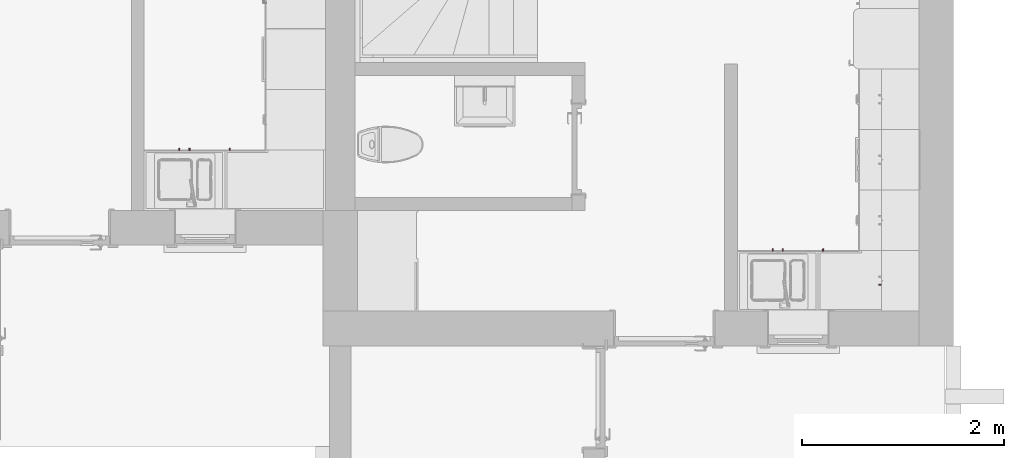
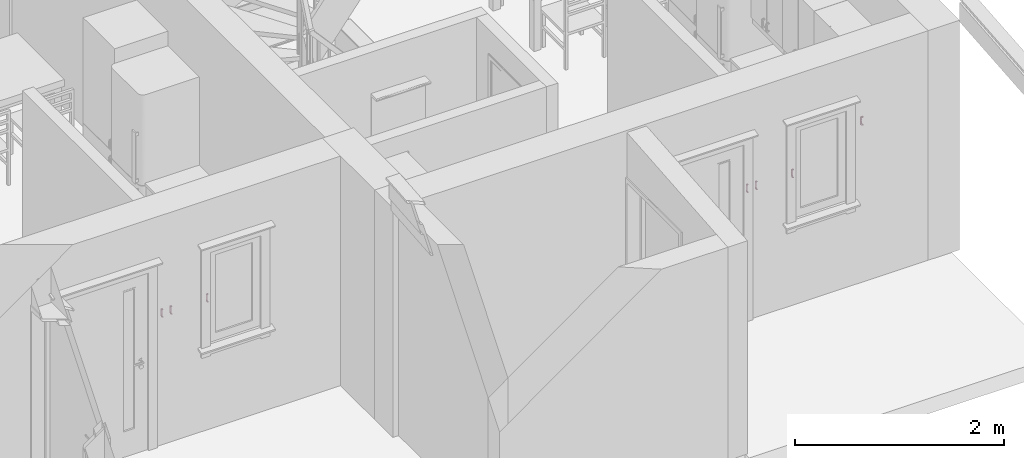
# One storey, part 50 of 65: 7 furnishings.
"""IFC2X3 building model written with IfcOpenShell, lengths in millimetres."""

from ifc_helpers import new_model, entity, si_unit, converted_unit, direction, frame, origin, place, context, subcontext, project, spatial, faceted_brep, source, transform, mapped, material, type_object, type_shapes, element, save


model = new_model("IFC2X3")

# Units and contexts
model_context = context("Model", 3, precision=0.01, world=origin(), true_north=direction((0.0, 1.0)))
body_context = subcontext(model_context, "Body", "Model", "MODEL_VIEW")
ifc_project = project(units=[si_unit("LENGTHUNIT", "METRE", prefix="MILLI"), si_unit("AREAUNIT", "SQUARE_METRE"), si_unit("VOLUMEUNIT", "CUBIC_METRE"), converted_unit("PLANEANGLEUNIT", "DEGREE", entity("IfcPlaneAngleMeasure", 0.017453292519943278), si_unit("PLANEANGLEUNIT", "RADIAN"), dimensions=[0, 0, 0, 0, 0, 0, 0])], contexts=[model_context])

# Site, building, storey, space
site_placement = place(None, origin())
site = spatial("IfcSite", under=ifc_project, at=site_placement, Name="Default", CompositionType="ELEMENT")
building_placement = place(site_placement, origin())
building = spatial("IfcBuilding", under=site, at=building_placement, CompositionType="ELEMENT")
storey_placement = place(building_placement, origin())
storey = spatial("IfcBuildingStorey", under=building, at=storey_placement, Name="Et. 1", CompositionType="ELEMENT", Elevation=0.0)
space_1_placement = place(storey_placement, origin())
space_1 = spatial("IfcSpace", under=storey, at=space_1_placement, Name="113", CompositionType="ELEMENT", InteriorOrExteriorSpace="INTERNAL")

# Furnishings
ifc_material = material(Name="Focus - Kjøkken - Håndtak")
furniture_type = type_object("IfcFurnitureType", Name="Focus - Håndtak Skap:Håndtak skap", AssemblyPlace="NOTDEFINED", material=ifc_material)
shared_shape = source(origin(), body_context, "Body", "Brep", [
    faceted_brep([(-6.0, 0.0, 4.021099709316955), (6.0, 0.0, 4.021099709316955), (7.414213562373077, 0.0, 3.435313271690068), (8.0, 0.0, 2.021099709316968), (8.0, 0.0, -4.0210997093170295), (-8.0, 0.0, -4.0210997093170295), (-8.0, 0.0, 2.021099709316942), (-7.414213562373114, 0.0, 3.435313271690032), (-8.0, 0.0, -92.021099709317), (-8.0, 0.0, -85.97890029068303), (8.0, 0.0, -85.97890029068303), (8.0, 0.0, -92.02109970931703), (7.414213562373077, 0.0, -93.43531327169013), (6.0, 0.0, -94.02109970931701), (-6.0, 0.0, -94.02109970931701), (-7.414213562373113, 0.0, -93.43531327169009), (6.0, -13.0, 4.021099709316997), (7.414213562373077, -13.0, 3.4353132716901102), (7.707106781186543, -13.0, 2.728206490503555), (8.0, -13.0, 2.0210997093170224), (8.0, -16.60126528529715, 0.5294067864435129), (8.0, -19.75783998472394, -0.7780892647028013), (8.0, -22.914414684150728, -2.0855853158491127), (8.0, -23.941085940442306, -4.564188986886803), (8.0, -24.967757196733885, -7.042792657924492), (8.0, -25.994428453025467, -9.52139632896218), (8.0, -27.021099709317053, -12.0), (8.0, -27.021099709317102, -24.345039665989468), (8.0, -27.02109970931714, -36.69008005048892), (8.0, -27.021099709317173, -47.017560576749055), (8.0, -27.02109970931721, -57.34504038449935), (8.0, -27.021099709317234, -65.65496033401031), (8.0, -27.021099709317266, -78.0), (8.0, -25.52940678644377, -81.60126528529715), (8.0, -24.221910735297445, -84.75783998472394), (8.0, -22.914414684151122, -87.91441468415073), (8.0, -20.435811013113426, -88.9410859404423), (8.0, -17.95720734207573, -89.96775719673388), (8.0, -15.478603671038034, -90.99442845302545), (8.0, -13.0, -92.02109970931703), (8.0, -13.0, -85.97890029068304), (8.0, -18.64193450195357, -83.64193450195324), (8.0, -20.978900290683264, -78.0), (8.0, -20.978900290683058, -12.0), (8.0, -18.641934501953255, -6.358065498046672), (8.0, -13.0, -4.021099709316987), (-8.0, -13.0, -4.021099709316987), (-8.0, -13.0, -92.02109970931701), (-8.0, -16.6012653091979, -90.52940677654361), (-8.0, -19.7578399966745, -89.22191073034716), (-8.0, -22.914414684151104, -87.91441468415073), (-8.0, -23.941085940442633, -85.435811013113), (-8.0, -24.967757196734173, -82.9572073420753), (-8.0, -25.99442845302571, -80.47860367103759), (-8.0, -27.021099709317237, -78.0), (-8.0, -27.0210997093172, -65.65496055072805), (-8.0, -27.021099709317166, -55.327480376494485), (-8.0, -27.02109970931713, -45.00000020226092), (-8.0, -27.021099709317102, -34.67252002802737), (-8.0, -27.021099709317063, -24.34503985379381), (-8.0, -27.02109970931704, -12.0), (-8.0, -25.52940677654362, -8.398734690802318), (-8.0, -24.221910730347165, -5.242160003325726), (-8.0, -22.914414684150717, -2.0855853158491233), (-8.0, -20.435811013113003, -1.0589140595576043), (-8.0, -17.9572073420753, -0.032242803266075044), (-8.0, -15.478603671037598, 0.9944284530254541), (-8.0, -13.0, 2.0210997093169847), (-8.0, -18.641934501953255, -6.358065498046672), (-8.0, -20.97890029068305, -12.0), (-8.0, -20.978900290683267, -78.0), (-8.0, -18.64193450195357, -83.64193450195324), (-8.0, -13.0, -85.97890029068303), (-7.414213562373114, -13.0, 3.4353132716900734), (-6.523051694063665, -13.0, 3.8044446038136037), (-6.0, -13.0, 4.021099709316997), (7.77682804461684, -22.641402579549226, -0.588486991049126), (7.761199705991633, -19.755916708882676, 1.3575143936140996), (7.832026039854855, -25.954055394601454, -4.794062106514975), (6.0, -24.3286282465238, -0.6713717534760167), (6.7653668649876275, -25.002953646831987, -1.6197407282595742), (7.138822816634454, -22.341444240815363, 0.5752165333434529), (6.0, -20.2025305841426, 1.0377138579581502), (7.148530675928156, -17.923500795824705, 2.864246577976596), (7.108929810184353, -27.65191997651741, -6.400304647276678), (6.0, -26.037713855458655, -4.797469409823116), (6.0, -26.674863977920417, -6.335685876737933), (6.0, -27.52940678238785, -8.398734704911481), (6.0, -25.18317105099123, -2.734420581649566), (7.807346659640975, -27.454202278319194, -8.476170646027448), (7.7836039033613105, -16.529274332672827, 2.502698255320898), (6.0, -16.60126529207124, 2.529406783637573), (7.414213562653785, -25.40873190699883, -2.82000717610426), (6.873580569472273, -26.597477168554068, -3.91370423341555), (6.0, -21.496471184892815, 0.5017461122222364), (6.523051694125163, -28.804444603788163, -12.0), (6.968390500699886, -28.53877057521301, -9.3033965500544), (6.0, -27.847981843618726, -9.167842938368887), (6.0, -29.021099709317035, -12.0), (7.414213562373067, -28.43531327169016, -12.0), (6.0, -18.664314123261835, 1.67486397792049), (6.0, -25.501746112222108, -3.5035288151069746), (-6.0, -16.601265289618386, 2.529406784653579), (-6.0, -15.832157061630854, 2.847981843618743), (-7.78360391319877, -27.50269824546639, -8.470725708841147), (-7.761199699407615, -26.357514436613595, -5.244083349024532), (-7.10892981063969, -18.599695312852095, 2.651919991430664), (-6.0, -20.2025305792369, 1.0377138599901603), (-6.0, -18.664314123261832, 1.67486397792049), (-7.730939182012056, -16.04875454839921, 2.7104148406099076), (-7.744591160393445, -19.340507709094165, 1.5930015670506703), (-6.76536686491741, -21.540484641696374, 1.3746327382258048), (-6.0, -22.265579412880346, 0.183171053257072), (-6.0, -21.496471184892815, 0.5017461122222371), (-7.148530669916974, -27.864246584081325, -7.076499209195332), (-7.138822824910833, -25.57521654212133, -2.6585557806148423), (-6.0, -26.037713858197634, -4.7974694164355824), (-7.414213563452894, -22.17999279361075, 0.4087319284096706), (-7.776828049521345, -24.411513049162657, -2.3585974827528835), (-6.853012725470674, -23.855367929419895, -0.47819170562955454), (-7.414213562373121, -28.43531327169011, -12.0), (-6.0, -27.529406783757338, -8.398734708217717), (-6.0, -25.501746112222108, -3.5035288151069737), (-6.0, -24.3286282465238, -0.6713717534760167), (-7.7071067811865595, -27.728206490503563, -12.0), (-6.96839049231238, -15.696603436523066, 3.5387705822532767), (-6.0, -29.021099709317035, -12.0), (-6.0, -26.67486397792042, -6.33568587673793), (7.414213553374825, -28.435313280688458, -29.508780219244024), (6.0, -29.021099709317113, -34.67252039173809), (7.450985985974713, -28.39755881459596, -41.853819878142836), (7.41421354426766, -28.435313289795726, -61.49999992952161), (6.0, -29.02109970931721, -65.65496032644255), (7.4142135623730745, -28.435313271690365, -78.0), (6.0, -29.02109970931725, -78.0), (6.0, -29.02109970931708, -24.345039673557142), (7.707106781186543, -27.728206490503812, -78.0), (6.0, -29.02109970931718, -55.3274796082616), (6.0, -29.021099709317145, -45.0), (-7.414213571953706, -28.435313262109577, -29.50878047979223), (-6.0, -29.02109970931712, -36.69007988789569), (-6.0, -29.021099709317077, -24.345040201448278), (-7.414213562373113, -28.43531327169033, -78.0), (-7.414213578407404, -28.435313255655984, -61.499999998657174), (-6.0, -29.021099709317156, -47.017559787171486), (-7.376459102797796, -28.472085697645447, -41.85382016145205), (-6.0, -29.021099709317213, -65.6549603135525), (-6.523051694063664, -28.80444460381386, -78.0), (-6.0, -29.02109970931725, -78.0), (-6.0, -29.021099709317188, -57.34504020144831), (7.776828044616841, -24.411513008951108, -87.64140257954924), (7.7611997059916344, -26.357514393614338, -84.7559167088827), (7.8320260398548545, -20.20593789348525, -90.95405539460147), (6.0, -24.328628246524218, -89.32862824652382), (6.0, -22.265579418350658, -90.18317105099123), (6.7653668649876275, -23.38025927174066, -90.002953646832), (6.0, -26.037713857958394, -85.2025305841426), (7.138822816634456, -25.575216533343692, -87.34144424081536), (7.148530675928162, -27.864246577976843, -82.92350079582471), (7.108929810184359, -18.599695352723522, -92.65191997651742), (6.0, -20.202530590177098, -91.03771385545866), (6.0, -18.66431412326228, -91.67486397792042), (6.0, -16.601265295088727, -92.52940678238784), (6.873580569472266, -21.086295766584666, -91.5974771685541), (6.0, -21.49647118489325, -90.50174611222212), (7.8073466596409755, -16.5238293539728, -92.45420227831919), (7.78360390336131, -27.50269825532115, -81.52927433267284), (6.0, -27.529406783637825, -81.60126529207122), (7.414213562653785, -22.179992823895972, -90.40873190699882), (6.0, -25.50174611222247, -86.49647118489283), (6.523051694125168, -13.0, -93.80444460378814), (6.968390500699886, -15.696603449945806, -93.53877057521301), (6.0, -15.832157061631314, -92.84798184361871), (6.0, -13.0, -94.02109970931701), (7.414213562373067, -13.0, -93.43531327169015), (6.0, -26.674863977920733, -83.66431412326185), (-6.0, -27.529406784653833, -81.60126528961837), (-6.0, -27.84798184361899, -80.83215706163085), (-7.7836039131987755, -16.529274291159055, -92.50269824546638), (-7.7611996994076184, -19.755916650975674, -91.3575144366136), (-7.108929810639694, -27.651919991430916, -83.59969531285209), (-6.0, -26.03771385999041, -85.20253057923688), (-6.0, -26.67486397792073, -83.66431412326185), (-7.730939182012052, -27.71041484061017, -81.04875454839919), (-7.74459116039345, -26.593001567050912, -84.34050770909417), (-6.76536686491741, -26.374632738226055, -86.54048464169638), (-6.0, -25.18317105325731, -87.26557941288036), (-6.0, -25.50174611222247, -86.49647118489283), (-7.148530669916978, -17.923500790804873, -92.86424658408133), (-7.138822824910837, -22.341444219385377, -90.57521654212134), (-6.0, -20.20253058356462, -91.03771385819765), (-7.414213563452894, -25.40873192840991, -87.17999279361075), (-7.776828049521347, -22.64140251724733, -89.41151304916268), (-6.853012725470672, -24.52180829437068, -88.85536792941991), (-7.41421356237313, -13.0, -93.43531327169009), (-6.0, -16.601265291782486, -92.52940678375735), (-6.0, -21.49647118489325, -90.50174611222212), (-6.0, -24.328628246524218, -89.32862824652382), (-7.707106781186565, -13.0, -92.72820649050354), (-6.96839049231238, -28.538770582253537, -80.69660343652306), (-6.0, -13.0, -94.02109970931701), (-6.0, -18.66431412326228, -91.67486397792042)], [[[0, 1, 2, 3, 4, 5, 6, 7]], [[8, 9, 10, 11, 12, 13, 14, 15]], [[16, 17, 2, 1]], [[2, 17, 18, 19, 3]], [[4, 3, 19, 20, 21, 22, 23, 24, 25, 26, 27, 28, 29, 30, 31, 32, 33, 34, 35, 36, 37, 38, 39, 11, 10, 40, 41, 42, 43, 44, 45]], [[5, 4, 45, 46]], [[9, 8, 47, 48, 49, 50, 51, 52, 53, 54, 55, 56, 57, 58, 59, 60, 61, 62, 63, 64, 65, 66, 67, 6, 5, 46, 68, 69, 70, 71, 72]], [[67, 73, 7, 6]], [[7, 73, 74, 75, 0]], [[1, 0, 75, 16]], [[76, 21, 77]], [[78, 24, 23]], [[79, 80, 81]], [[82, 81, 83]], [[84, 85, 86, 87]], [[80, 79, 88]], [[89, 24, 78]], [[90, 77, 20]], [[17, 91, 83]], [[92, 93, 84]], [[81, 82, 94, 79]], [[87, 95, 96]], [[77, 83, 81]], [[23, 76, 78]], [[93, 92, 80]], [[22, 76, 23]], [[90, 17, 83]], [[19, 18, 17, 90]], [[95, 87, 97, 98]], [[99, 26, 89]], [[76, 77, 81]], [[20, 19, 90]], [[92, 76, 81]], [[21, 76, 22]], [[21, 20, 77]], [[83, 77, 90]], [[91, 17, 16]], [[83, 91, 100, 82]], [[93, 88, 101, 85]], [[81, 80, 92]], [[88, 93, 80]], [[85, 84, 93]], [[76, 92, 78]], [[92, 84, 78]], [[89, 78, 84]], [[84, 96, 89]], [[89, 26, 25, 24]], [[96, 95, 99]], [[89, 96, 99]], [[87, 96, 84]], [[44, 68, 46, 45]], [[43, 69, 68, 44]], [[74, 102, 103, 75]], [[104, 105, 61]], [[106, 107, 108, 102]], [[109, 110, 106]], [[111, 112, 113, 107]], [[105, 114, 115]], [[115, 114, 116]], [[110, 64, 117]], [[118, 62, 105]], [[106, 110, 117]], [[117, 119, 111]], [[120, 121, 114]], [[115, 116, 122, 123]], [[112, 111, 119]], [[119, 117, 118]], [[63, 118, 64]], [[104, 120, 114]], [[60, 124, 120, 104]], [[109, 125, 73]], [[125, 109, 106]], [[118, 105, 115]], [[61, 60, 104]], [[118, 115, 119]], [[62, 118, 63]], [[62, 61, 105]], [[114, 105, 104]], [[121, 120, 126]], [[114, 121, 127, 116]], [[107, 106, 111]], [[106, 117, 111]], [[115, 123, 119]], [[112, 119, 123]], [[64, 118, 117]], [[125, 74, 73]], [[102, 74, 125]], [[102, 125, 106]], [[73, 67, 109]], [[66, 65, 64, 110]], [[110, 109, 66]], [[109, 67, 66]], [[122, 116, 127, 121, 126, 98, 97, 87, 86, 85, 101, 88, 79, 123]], [[79, 94, 82, 100, 91, 16, 75, 103, 102, 108, 107, 113, 112, 123]], [[128, 28, 27, 99]], [[129, 130, 128]], [[29, 130, 131]], [[132, 133, 131]], [[132, 134, 133]], [[135, 99, 95, 98]], [[128, 99, 135, 129]], [[30, 29, 131, 31]], [[31, 133, 136, 32]], [[27, 26, 99]], [[31, 131, 133]], [[130, 137, 131]], [[28, 130, 29]], [[129, 138, 137, 130]], [[28, 128, 130]], [[137, 132, 131]], [[69, 43, 42, 70]], [[139, 140, 141, 120]], [[55, 142, 143]], [[144, 145, 143]], [[146, 142, 147, 148]], [[141, 126, 120]], [[55, 54, 142]], [[59, 120, 124, 60]], [[139, 120, 59, 58]], [[146, 149, 144, 143]], [[58, 145, 139]], [[146, 143, 142]], [[145, 56, 143]], [[140, 145, 144]], [[58, 57, 56, 145]], [[140, 139, 145]], [[56, 55, 143]], [[98, 126, 141, 140, 144, 149, 146, 148, 134, 132, 137, 138, 129, 135]], [[150, 34, 151]], [[152, 37, 36]], [[153, 154, 155]], [[156, 157, 158]], [[159, 160, 161, 162]], [[163, 154, 164, 160]], [[165, 37, 152]], [[166, 151, 33]], [[133, 167, 158]], [[168, 163, 159]], [[157, 156, 169, 153]], [[162, 170, 171]], [[151, 158, 157]], [[36, 150, 152]], [[163, 168, 155]], [[35, 150, 36]], [[166, 133, 158]], [[32, 136, 133, 166]], [[170, 162, 172, 173]], [[174, 39, 165]], [[150, 151, 157]], [[33, 32, 166]], [[168, 150, 157]], [[34, 150, 35]], [[34, 33, 151]], [[158, 151, 166]], [[167, 133, 134]], [[158, 167, 175, 156]], [[168, 157, 155]], [[157, 153, 155]], [[154, 163, 155]], [[160, 159, 163]], [[150, 168, 152]], [[168, 159, 152]], [[165, 152, 159]], [[159, 171, 165]], [[165, 39, 38, 37]], [[171, 170, 174]], [[165, 171, 174]], [[162, 171, 159]], [[41, 71, 70, 42]], [[40, 72, 71, 41]], [[147, 176, 177, 148]], [[178, 179, 48]], [[180, 181, 182, 176]], [[183, 184, 180]], [[185, 186, 187, 181]], [[179, 188, 189]], [[189, 188, 190]], [[184, 51, 191]], [[192, 49, 179]], [[180, 184, 191]], [[191, 193, 185]], [[194, 195, 188]], [[189, 190, 196, 197]], [[186, 185, 193]], [[193, 191, 192]], [[50, 192, 51]], [[178, 194, 188]], [[47, 198, 194, 178]], [[183, 199, 142]], [[199, 183, 180]], [[192, 179, 189]], [[48, 47, 178]], [[192, 189, 193]], [[49, 192, 50]], [[49, 48, 179]], [[188, 179, 178]], [[195, 194, 200]], [[188, 195, 201, 190]], [[181, 180, 185]], [[180, 191, 185]], [[189, 197, 193]], [[186, 193, 197]], [[51, 192, 191]], [[199, 147, 142]], [[176, 147, 199]], [[176, 199, 180]], [[142, 54, 183]], [[53, 52, 51, 184]], [[184, 183, 53]], [[183, 54, 53]], [[196, 190, 201, 195, 200, 173, 172, 162, 161, 160, 164, 154, 153, 197]], [[153, 169, 156, 175, 167, 134, 148, 177, 176, 182, 181, 187, 186, 197]], [[13, 12, 174, 170, 173]], [[174, 12, 11, 39]], [[72, 40, 10, 9]], [[8, 15, 194, 198, 47]], [[194, 15, 14, 200]], [[173, 200, 14, 13]]]),
])
type_shapes(furniture_type, [shared_shape])
for number, where, z_axis, x_axis, name in (
    (1, (32469.00958675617, 9344.180957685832, 820.0), (0.0, 0.0, 1.0), (-1.0, 0.0, 0.0), "Focus - Håndtak Skap:Håndtak skap"),
    (2, (32569.00958675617, 9344.180957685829, 820.0), (0.0, 0.0, 1.0), (-1.0, 0.0, 0.0), "Focus - Håndtak Skap:Håndtak skap"),
    (3, (32969.00958675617, 9344.180957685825, 820.0), (0.0, 0.0, 1.0), (-1.0, 0.0, 0.0), "Focus - Håndtak Skap:Håndtak skap"),
):
    element("IfcFurnishingElement", number, at=place(space_1_placement, frame(where, z_axis=z_axis, x_axis=x_axis)), inside=space_1, type_object=furniture_type, material=ifc_material, Name=name, context=body_context, shape_type="MappedRepresentation", body=[
        mapped(shared_shape, transform((0.0, 0.0, 0.0), scale=1.0)),
    ])

# Space
space_2_placement = place(storey_placement, origin())
space_2 = spatial("IfcSpace", under=storey, at=space_2_placement, Name="109", CompositionType="ELEMENT", InteriorOrExteriorSpace="INTERNAL")

# Furnishings
for number, where, z_axis, x_axis, name in (
    (4, (26582.00958675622, 10344.180957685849, 820.0), (0.0, 0.0, 1.0), (-1.0, 0.0, 0.0), "Focus - Håndtak Skap:Håndtak skap"),
    (5, (26682.00958675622, 10344.180957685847, 820.0), (0.0, 0.0, 1.0), (-1.0, 0.0, 0.0), "Focus - Håndtak Skap:Håndtak skap"),
    (6, (27082.00958675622, 10344.180957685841, 820.0), (0.0, 0.0, 1.0), (-1.0, 0.0, 0.0), "Focus - Håndtak Skap:Håndtak skap"),
):
    element("IfcFurnishingElement", number, at=place(space_2_placement, frame(where, z_axis=z_axis, x_axis=x_axis)), inside=space_2, type_object=furniture_type, material=ifc_material, Name=name, context=body_context, shape_type="MappedRepresentation", body=[
        mapped(shared_shape, transform((0.0, 0.0, 0.0), scale=1.0)),
    ])
furnishing_placement = place(space_1_placement, frame((33549.00958675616, 9014.18095768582, 1440.0), z_axis=(0.0, 0.0, 1.0), x_axis=(0.0, -1.0, 0.0)))
element("IfcFurnishingElement", 7, at=furnishing_placement, inside=space_1, type_object=furniture_type, material=ifc_material, Name="Focus - Håndtak Skap:Håndtak skap", context=body_context, shape_type="MappedRepresentation", body=[
    mapped(shared_shape, transform((0.0, 0.0, 0.0), scale=1.0)),
])

save(model, "model.ifc")
